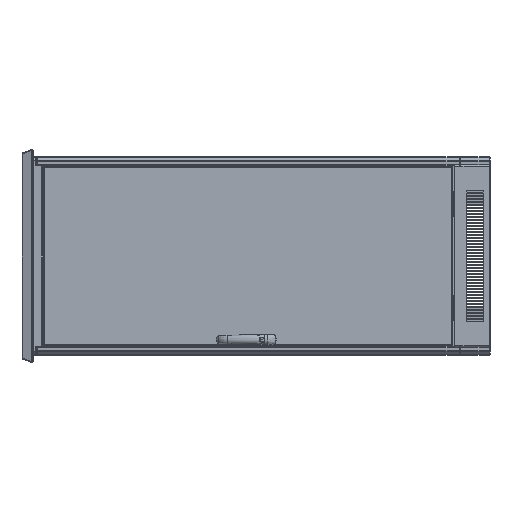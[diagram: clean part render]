
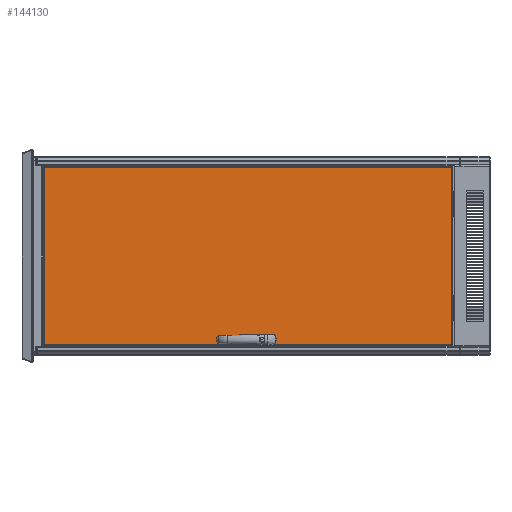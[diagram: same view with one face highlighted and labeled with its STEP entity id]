
A CAD part, left-side view. The second image highlights one B-rep face of the part: STEP entity #144130.
In plain terms, the highlighted planar face has unit normal (-1, 0, 0) as drawn and (0, 0, -1) by its records, which use the part's own axes.
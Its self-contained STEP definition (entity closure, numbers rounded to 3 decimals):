
#3859 = CARTESIAN_POINT ( 'NONE',  ( 269.1, -31.35, 0. ) ) ;
#6247 = CARTESIAN_POINT ( 'NONE',  ( -297.5, -677.65, 0. ) ) ;
#6810 = ORIENTED_EDGE ( 'NONE', *, *, #78753, .T. ) ;
#8390 = VECTOR ( 'NONE', #57672, 1000. ) ;
#11489 = ORIENTED_EDGE ( 'NONE', *, *, #162722, .T. ) ;
#12221 = DIRECTION ( 'NONE',  ( 0., 1., 0. ) ) ;
#12744 = DIRECTION ( 'NONE',  ( 0., -1., 0. ) ) ;
#13346 = ORIENTED_EDGE ( 'NONE', *, *, #61293, .T. ) ;
#13701 = LINE ( 'NONE', #35573, #129010 ) ;
#16584 = DIRECTION ( 'NONE',  ( 0., 0., 1. ) ) ;
#18265 = CARTESIAN_POINT ( 'NONE',  ( 297.5, 677.65, 0. ) ) ;
#18659 = AXIS2_PLACEMENT_3D ( 'NONE', #43288, #58345, #55050 ) ;
#20481 = CARTESIAN_POINT ( 'NONE',  ( 278.6, -79.35, 0. ) ) ;
#20517 = ORIENTED_EDGE ( 'NONE', *, *, #77298, .T. ) ;
#20799 = CARTESIAN_POINT ( 'NONE',  ( 278.6, 0., 0. ) ) ;
#27469 = VECTOR ( 'NONE', #94394, 1000. ) ;
#28455 = CIRCLE ( 'NONE', #122261, 9.5 ) ;
#28605 = ORIENTED_EDGE ( 'NONE', *, *, #94830, .T. ) ;
#29446 = CIRCLE ( 'NONE', #104473, 9.5 ) ;
#29958 = VERTEX_POINT ( 'NONE', #143004 ) ;
#31918 = VERTEX_POINT ( 'NONE', #87870 ) ;
#35318 = CIRCLE ( 'NONE', #40748, 9.5 ) ;
#35573 = CARTESIAN_POINT ( 'NONE',  ( 288.1, -31.35, 0. ) ) ;
#37570 = CARTESIAN_POINT ( 'NONE',  ( 295.15, -677.65, 0. ) ) ;
#37915 = LINE ( 'NONE', #88304, #104243 ) ;
#38254 = VERTEX_POINT ( 'NONE', #70214 ) ;
#39261 = ORIENTED_EDGE ( 'NONE', *, *, #150250, .T. ) ;
#39861 = ORIENTED_EDGE ( 'NONE', *, *, #61953, .T. ) ;
#40024 = VECTOR ( 'NONE', #133608, 1000. ) ;
#40453 = VERTEX_POINT ( 'NONE', #3859 ) ;
#40748 = AXIS2_PLACEMENT_3D ( 'NONE', #108022, #16584, #79556 ) ;
#41693 = CARTESIAN_POINT ( 'NONE',  ( 278.6, 31.35, 0. ) ) ;
#42162 = EDGE_LOOP ( 'NONE', ( #115557, #39261 ) ) ;
#43288 = CARTESIAN_POINT ( 'NONE',  ( 278.6, 0., 0. ) ) ;
#43324 = DIRECTION ( 'NONE',  ( 0., 0., 1. ) ) ;
#45679 = DIRECTION ( 'NONE',  ( -1., 0., 0. ) ) ;
#48989 = ORIENTED_EDGE ( 'NONE', *, *, #60371, .T. ) ;
#52074 = CARTESIAN_POINT ( 'NONE',  ( 269.1, 79.35, 0. ) ) ;
#54483 = VERTEX_POINT ( 'NONE', #52074 ) ;
#54626 = VECTOR ( 'NONE', #135552, 1000. ) ;
#55050 = DIRECTION ( 'NONE',  ( -1., 0., 0. ) ) ;
#57672 = DIRECTION ( 'NONE',  ( 1., 0., 0. ) ) ;
#58345 = DIRECTION ( 'NONE',  ( 0., 0., 1. ) ) ;
#58857 = CARTESIAN_POINT ( 'NONE',  ( 269.1, 31.35, 0. ) ) ;
#60371 = EDGE_CURVE ( 'NONE', #29958, #142277, #133215, .T. ) ;
#60716 = DIRECTION ( 'NONE',  ( -1., 0., 0. ) ) ;
#61293 = EDGE_CURVE ( 'NONE', #71999, #40453, #35318, .T. ) ;
#61683 = CARTESIAN_POINT ( 'NONE',  ( 278.6, 79.35, 0. ) ) ;
#61953 = EDGE_CURVE ( 'NONE', #143622, #71999, #13701, .T. ) ;
#62372 = PLANE ( 'NONE',  #136869 ) ;
#64557 = VERTEX_POINT ( 'NONE', #37570 ) ;
#65054 = CARTESIAN_POINT ( 'NONE',  ( -295.15, 680., 0. ) ) ;
#65169 = VERTEX_POINT ( 'NONE', #58857 ) ;
#66622 = EDGE_CURVE ( 'NONE', #54483, #65169, #126779, .T. ) ;
#70214 = CARTESIAN_POINT ( 'NONE',  ( 269.1, -79.35, 0. ) ) ;
#71999 = VERTEX_POINT ( 'NONE', #96251 ) ;
#72002 = DIRECTION ( 'NONE',  ( 0., 0., 1. ) ) ;
#73422 = VERTEX_POINT ( 'NONE', #125733 ) ;
#73935 = DIRECTION ( 'NONE',  ( 0., -1., 0. ) ) ;
#74275 = DIRECTION ( 'NONE',  ( 0., 0., 1. ) ) ;
#75006 = DIRECTION ( 'NONE',  ( 0., 1., 0. ) ) ;
#75071 = CARTESIAN_POINT ( 'NONE',  ( 295.15, 677.65, 0. ) ) ;
#76126 = CARTESIAN_POINT ( 'NONE',  ( 281.35, 0., 0. ) ) ;
#76549 = EDGE_CURVE ( 'NONE', #130117, #31918, #88282, .T. ) ;
#77298 = EDGE_CURVE ( 'NONE', #142277, #64557, #37915, .T. ) ;
#78753 = EDGE_CURVE ( 'NONE', #65169, #80207, #150220, .T. ) ;
#79556 = DIRECTION ( 'NONE',  ( -1., 0., 0. ) ) ;
#80207 = VERTEX_POINT ( 'NONE', #147415 ) ;
#81387 = ORIENTED_EDGE ( 'NONE', *, *, #100035, .T. ) ;
#81745 = EDGE_LOOP ( 'NONE', ( #116786, #28605, #39861, #13346 ) ) ;
#82825 = EDGE_LOOP ( 'NONE', ( #164733, #6810, #81387, #95485 ) ) ;
#83553 = CARTESIAN_POINT ( 'NONE',  ( 269.1, -31.35, 0. ) ) ;
#86762 = FACE_BOUND ( 'NONE', #81745, .T. ) ;
#87368 = CARTESIAN_POINT ( 'NONE',  ( 269.1, 79.35, 0. ) ) ;
#87870 = CARTESIAN_POINT ( 'NONE',  ( 275.85, 0., 0. ) ) ;
#88282 = CIRCLE ( 'NONE', #18659, 2.75 ) ;
#88304 = CARTESIAN_POINT ( 'NONE',  ( 295.15, -680., 0. ) ) ;
#90475 = VECTOR ( 'NONE', #12221, 1000. ) ;
#90568 = EDGE_CURVE ( 'NONE', #73422, #29958, #127190, .T. ) ;
#94394 = DIRECTION ( 'NONE',  ( -1., 0., 0. ) ) ;
#94830 = EDGE_CURVE ( 'NONE', #38254, #143622, #29446, .T. ) ;
#95325 = LINE ( 'NONE', #83553, #54626 ) ;
#95485 = ORIENTED_EDGE ( 'NONE', *, *, #130480, .T. ) ;
#96251 = CARTESIAN_POINT ( 'NONE',  ( 288.1, -31.35, 0. ) ) ;
#100035 = EDGE_CURVE ( 'NONE', #80207, #133535, #119413, .T. ) ;
#101811 = CARTESIAN_POINT ( 'NONE',  ( 0., 0., 0. ) ) ;
#104243 = VECTOR ( 'NONE', #12744, 1000. ) ;
#104473 = AXIS2_PLACEMENT_3D ( 'NONE', #20481, #149738, #45679 ) ;
#104885 = EDGE_LOOP ( 'NONE', ( #11489, #130504, #48989, #20517 ) ) ;
#106301 = DIRECTION ( 'NONE',  ( -1., 0., 0. ) ) ;
#108022 = CARTESIAN_POINT ( 'NONE',  ( 278.6, -31.35, 0. ) ) ;
#112555 = VECTOR ( 'NONE', #73935, 1000. ) ;
#112773 = FACE_BOUND ( 'NONE', #82825, .T. ) ;
#113486 = EDGE_CURVE ( 'NONE', #40453, #38254, #95325, .T. ) ;
#115557 = ORIENTED_EDGE ( 'NONE', *, *, #76549, .T. ) ;
#116786 = ORIENTED_EDGE ( 'NONE', *, *, #113486, .T. ) ;
#119413 = LINE ( 'NONE', #158008, #40024 ) ;
#122261 = AXIS2_PLACEMENT_3D ( 'NONE', #61683, #74275, #163248 ) ;
#123196 = CIRCLE ( 'NONE', #158078, 2.75 ) ;
#123375 = AXIS2_PLACEMENT_3D ( 'NONE', #41693, #43324, #106301 ) ;
#124520 = FACE_OUTER_BOUND ( 'NONE', #104885, .T. ) ;
#125733 = CARTESIAN_POINT ( 'NONE',  ( -295.15, -677.65, 0. ) ) ;
#126779 = LINE ( 'NONE', #87368, #112555 ) ;
#127190 = LINE ( 'NONE', #65054, #90475 ) ;
#129010 = VECTOR ( 'NONE', #75006, 1000. ) ;
#130117 = VERTEX_POINT ( 'NONE', #76126 ) ;
#130480 = EDGE_CURVE ( 'NONE', #133535, #54483, #28455, .T. ) ;
#130504 = ORIENTED_EDGE ( 'NONE', *, *, #90568, .T. ) ;
#133215 = LINE ( 'NONE', #18265, #8390 ) ;
#133535 = VERTEX_POINT ( 'NONE', #136971 ) ;
#133608 = DIRECTION ( 'NONE',  ( 0., 1., 0. ) ) ;
#134169 = CARTESIAN_POINT ( 'NONE',  ( 288.1, -79.35, 0. ) ) ;
#135552 = DIRECTION ( 'NONE',  ( 0., -1., 0. ) ) ;
#136869 = AXIS2_PLACEMENT_3D ( 'NONE', #101811, #162290, #60716 ) ;
#136971 = CARTESIAN_POINT ( 'NONE',  ( 288.1, 79.35, 0. ) ) ;
#142277 = VERTEX_POINT ( 'NONE', #75071 ) ;
#143004 = CARTESIAN_POINT ( 'NONE',  ( -295.15, 677.65, 0. ) ) ;
#143622 = VERTEX_POINT ( 'NONE', #134169 ) ;
#144130 = ADVANCED_FACE ( 'NONE', ( #124520, #163945, #86762, #112773 ), #62372, .T. ) ;
#147250 = LINE ( 'NONE', #6247, #27469 ) ;
#147415 = CARTESIAN_POINT ( 'NONE',  ( 288.1, 31.35, 0. ) ) ;
#149738 = DIRECTION ( 'NONE',  ( 0., 0., 1. ) ) ;
#150220 = CIRCLE ( 'NONE', #123375, 9.5 ) ;
#150250 = EDGE_CURVE ( 'NONE', #31918, #130117, #123196, .T. ) ;
#158008 = CARTESIAN_POINT ( 'NONE',  ( 288.1, 79.35, 0. ) ) ;
#158078 = AXIS2_PLACEMENT_3D ( 'NONE', #20799, #72002, #160963 ) ;
#160963 = DIRECTION ( 'NONE',  ( -1., 0., 0. ) ) ;
#162290 = DIRECTION ( 'NONE',  ( 0., 0., -1. ) ) ;
#162722 = EDGE_CURVE ( 'NONE', #64557, #73422, #147250, .T. ) ;
#163248 = DIRECTION ( 'NONE',  ( -1., 0., 0. ) ) ;
#163945 = FACE_BOUND ( 'NONE', #42162, .T. ) ;
#164733 = ORIENTED_EDGE ( 'NONE', *, *, #66622, .T. ) ;
